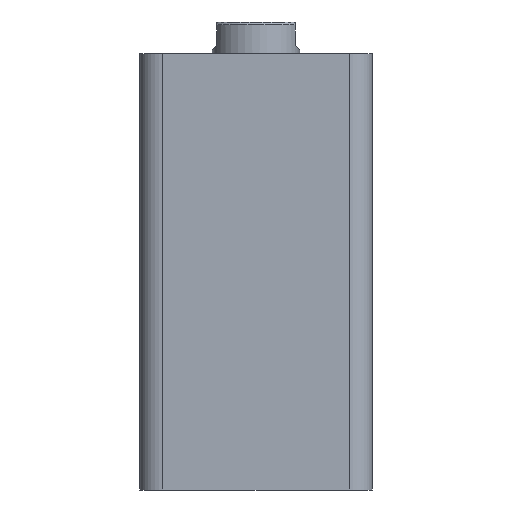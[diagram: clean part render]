
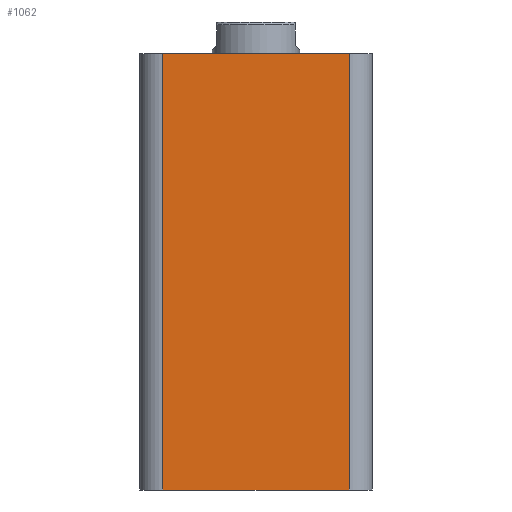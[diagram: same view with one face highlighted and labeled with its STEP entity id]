
A CAD part, front view. The second image highlights one B-rep face of the part: STEP entity #1062.
In plain terms, the highlighted planar face has unit normal (0, -1, 0).
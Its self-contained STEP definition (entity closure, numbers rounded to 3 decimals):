
#326 = VECTOR ( 'NONE', #2300, 1000. ) ;
#328 = VECTOR ( 'NONE', #2069, 1000. ) ;
#329 = LINE ( 'NONE', #2129, #326 ) ;
#359 = VECTOR ( 'NONE', #2071, 1000. ) ;
#361 = LINE ( 'NONE', #2066, #385 ) ;
#369 = LINE ( 'NONE', #2072, #359 ) ;
#385 = VECTOR ( 'NONE', #2130, 1000. ) ;
#388 = LINE ( 'NONE', #2156, #328 ) ;
#444 = VERTEX_POINT ( 'NONE', #504 ) ;
#504 = CARTESIAN_POINT ( 'NONE',  ( -32., -40., 150. ) ) ;
#836 = EDGE_CURVE ( 'NONE', #444, #1556, #369, .T. ) ;
#837 = EDGE_CURVE ( 'NONE', #444, #1559, #361, .T. ) ;
#838 = EDGE_CURVE ( 'NONE', #1559, #1558, #388, .T. ) ;
#839 = EDGE_CURVE ( 'NONE', #1558, #1556, #329, .T. ) ;
#1022 = AXIS2_PLACEMENT_3D ( 'NONE', #2209, #2175, #2171 ) ;
#1062 = ADVANCED_FACE ( 'NONE', ( #2621 ), #2181, .F. ) ;
#1520 = ORIENTED_EDGE ( 'NONE', *, *, #836, .F. ) ;
#1521 = ORIENTED_EDGE ( 'NONE', *, *, #837, .T. ) ;
#1522 = ORIENTED_EDGE ( 'NONE', *, *, #838, .T. ) ;
#1523 = ORIENTED_EDGE ( 'NONE', *, *, #839, .T. ) ;
#1556 = VERTEX_POINT ( 'NONE', #2052 ) ;
#1558 = VERTEX_POINT ( 'NONE', #2031 ) ;
#1559 = VERTEX_POINT ( 'NONE', #2044 ) ;
#1610 = EDGE_LOOP ( 'NONE', ( #1520, #1521, #1522, #1523 ) ) ;
#2031 = CARTESIAN_POINT ( 'NONE',  ( 32., -40., 0. ) ) ;
#2044 = CARTESIAN_POINT ( 'NONE',  ( -32., -40., 0. ) ) ;
#2052 = CARTESIAN_POINT ( 'NONE',  ( 32., -40., 150. ) ) ;
#2066 = CARTESIAN_POINT ( 'NONE',  ( -32., -40., 150. ) ) ;
#2069 = DIRECTION ( 'NONE',  ( 1., 0., 0. ) ) ;
#2071 = DIRECTION ( 'NONE',  ( 1., 0., 0. ) ) ;
#2072 = CARTESIAN_POINT ( 'NONE',  ( -40., -40., 150. ) ) ;
#2129 = CARTESIAN_POINT ( 'NONE',  ( 32., -40., 150. ) ) ;
#2130 = DIRECTION ( 'NONE',  ( 0., 0., -1. ) ) ;
#2156 = CARTESIAN_POINT ( 'NONE',  ( -40., -40., 0. ) ) ;
#2171 = DIRECTION ( 'NONE',  ( 0., 0., 1. ) ) ;
#2175 = DIRECTION ( 'NONE',  ( 0., 1., 0. ) ) ;
#2181 = PLANE ( 'NONE',  #1022 ) ;
#2209 = CARTESIAN_POINT ( 'NONE',  ( -40., -40., 150. ) ) ;
#2300 = DIRECTION ( 'NONE',  ( 0., 0., 1. ) ) ;
#2621 = FACE_OUTER_BOUND ( 'NONE', #1610, .T. ) ;
